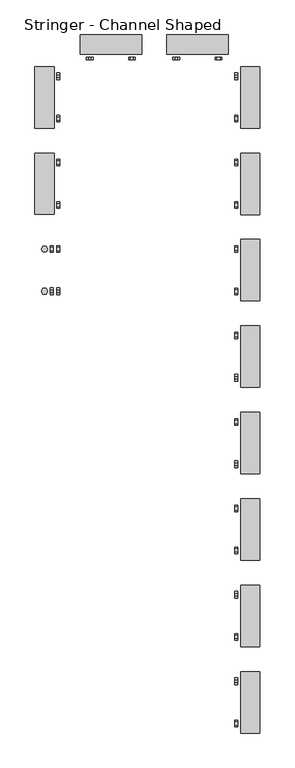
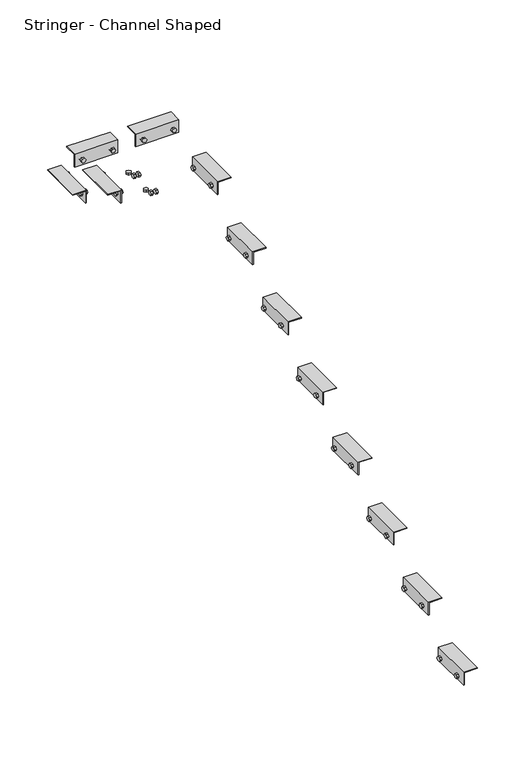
"""IFC4 building model written with IfcOpenShell, lengths in millimetres: railing geometry, Stringer - Channel Shaped."""

from ifc_helpers import new_model, si_unit, frame, origin, place, context, project, spatial, polyline, outline, extrude, source, transform, mapped, element, save


def stringer_channel_shaped_5b7d0e47(model_context):
    return source(origin(), model_context, "Body", "SweptSolid", [
        extrude(outline(polyline([(1558.637272, 1836.5107143), (1564.1365333, 1846.0357143), (1575.1350559, 1846.0357143), (1580.6343173, 1836.5107143), (1575.1350559, 1826.9857143), (1564.1365333, 1826.9857143), (1558.637272, 1836.5107143)])), frame((1508.1306157, 0.0, 0.0), z_axis=(1.0, 0.0, 0.0), x_axis=(0.0, 1.0, 0.0)), (0.0, 0.0, 1.0), 9.525),
        extrude(outline(polyline([(1418.937272, 1836.5107143), (1424.4365333, 1846.0357143), (1435.4350559, 1846.0357143), (1440.9343173, 1836.5107143), (1435.4350559, 1826.9857143), (1424.4365333, 1826.9857143), (1418.937272, 1836.5107143)])), frame((1508.1306157, 0.0, 0.0), z_axis=(1.0, 0.0, 0.0), x_axis=(0.0, 1.0, 0.0)), (0.0, 0.0, 1.0), 9.525),
        extrude(outline(polyline([(1558.637272, 1836.5107143), (1564.1365333, 1846.0357143), (1575.1350559, 1846.0357143), (1580.6343173, 1836.5107143), (1575.1350559, 1826.9857143), (1564.1365333, 1826.9857143), (1558.637272, 1836.5107143)])), frame((1485.9056157, 0.0, 0.0), z_axis=(1.0, 0.0, 0.0), x_axis=(0.0, 1.0, 0.0)), (0.0, 0.0, 1.0), 9.525),
        extrude(outline(polyline([(1418.937272, 1836.5107143), (1424.4365333, 1846.0357143), (1435.4350559, 1846.0357143), (1440.9343173, 1836.5107143), (1435.4350559, 1826.9857143), (1424.4365333, 1826.9857143), (1418.937272, 1836.5107143)])), frame((1485.9056157, 0.0, 0.0), z_axis=(1.0, 0.0, 0.0), x_axis=(0.0, 1.0, 0.0)), (0.0, 0.0, 1.0), 9.525),
        extrude(outline(polyline([(1477.8541383, 1569.6357946), (1472.354877, 1560.1107946), (1461.3563543, 1560.1107946), (1455.857093, 1569.6357946), (1461.3563543, 1579.1607946), (1472.354877, 1579.1607946), (1477.8541383, 1569.6357946)])), frame((0.0, 0.0, 1855.5607143), z_axis=(0.0, 0.0, 1.0), x_axis=(1.0, 0.0, 0.0)), (0.0, 0.0, 1.0), 9.525),
        extrude(outline(polyline([(1477.8541383, 1429.9357946), (1472.354877, 1420.4107946), (1461.3563543, 1420.4107946), (1455.857093, 1429.9357946), (1461.3563543, 1439.4607946), (1472.354877, 1439.4607946), (1477.8541383, 1429.9357946)])), frame((0.0, 0.0, 1855.5607143), z_axis=(0.0, 0.0, 1.0), x_axis=(1.0, 0.0, 0.0)), (0.0, 0.0, 1.0), 9.525),
        extrude(outline(polyline([(1630.5892857, 1498.6056157), (1694.0892857, 1498.6056157), (1694.0892857, 1435.1056157), (1690.9142857, 1435.1056157), (1690.9142857, 1495.4306157), (1630.5892857, 1495.4306157), (1630.5892857, 1498.6056157)])), frame((0.0, 1683.9357946, 0.0), z_axis=(0.0, 1.0, 0.0), x_axis=(0.0, 0.0, 1.0)), (0.0, 0.0, 1.0), 203.2),
        extrude(outline(polyline([(1844.387272, 1662.3392857), (1849.8865333, 1671.8642857), (1860.8850559, 1671.8642857), (1866.3843173, 1662.3392857), (1860.8850559, 1652.8142857), (1849.8865333, 1652.8142857), (1844.387272, 1662.3392857)])), frame((1508.1306157, 0.0, 0.0), z_axis=(1.0, 0.0, 0.0), x_axis=(0.0, 1.0, 0.0)), (0.0, 0.0, 1.0), 9.525),
        extrude(outline(polyline([(1704.687272, 1662.3392857), (1710.1865333, 1671.8642857), (1721.1850559, 1671.8642857), (1726.6843173, 1662.3392857), (1721.1850559, 1652.8142857), (1710.1865333, 1652.8142857), (1704.687272, 1662.3392857)])), frame((1508.1306157, 0.0, 0.0), z_axis=(1.0, 0.0, 0.0), x_axis=(0.0, 1.0, 0.0)), (0.0, 0.0, 1.0), 9.525),
        extrude(outline(polyline([(1844.387272, 1662.3392857), (1849.8865333, 1671.8642857), (1860.8850559, 1671.8642857), (1866.3843173, 1662.3392857), (1860.8850559, 1652.8142857), (1849.8865333, 1652.8142857), (1844.387272, 1662.3392857)])), frame((1485.9056157, 0.0, 0.0), z_axis=(1.0, 0.0, 0.0), x_axis=(0.0, 1.0, 0.0)), (0.0, 0.0, 1.0), 9.525),
        extrude(outline(polyline([(1704.687272, 1662.3392857), (1710.1865333, 1671.8642857), (1721.1850559, 1671.8642857), (1726.6843173, 1662.3392857), (1721.1850559, 1652.8142857), (1710.1865333, 1652.8142857), (1704.687272, 1662.3392857)])), frame((1485.9056157, 0.0, 0.0), z_axis=(1.0, 0.0, 0.0), x_axis=(0.0, 1.0, 0.0)), (0.0, 0.0, 1.0), 9.525),
        extrude(outline(polyline([(1477.8541383, 1855.3857946), (1472.354877, 1845.8607946), (1461.3563543, 1845.8607946), (1455.857093, 1855.3857946), (1461.3563543, 1864.9107946), (1472.354877, 1864.9107946), (1477.8541383, 1855.3857946)])), frame((0.0, 0.0, 1681.3892857), z_axis=(0.0, 0.0, 1.0), x_axis=(1.0, 0.0, 0.0)), (0.0, 0.0, 1.0), 9.525),
        extrude(outline(polyline([(1477.8541383, 1715.6857946), (1472.354877, 1706.1607946), (1461.3563543, 1706.1607946), (1455.857093, 1715.6857946), (1461.3563543, 1725.2107946), (1472.354877, 1725.2107946), (1477.8541383, 1715.6857946)])), frame((0.0, 0.0, 1681.3892857), z_axis=(0.0, 0.0, 1.0), x_axis=(1.0, 0.0, 0.0)), (0.0, 0.0, 1.0), 9.525),
        extrude(outline(polyline([(1456.4178571, 1498.6056157), (1519.9178571, 1498.6056157), (1519.9178571, 1435.1056157), (1516.7428571, 1435.1056157), (1516.7428571, 1495.4306157), (1456.4178571, 1495.4306157), (1456.4178571, 1498.6056157)])), frame((0.0, 1969.6857946, 0.0), z_axis=(0.0, 1.0, 0.0), x_axis=(0.0, 0.0, 1.0)), (0.0, 0.0, 1.0), 203.2),
        extrude(outline(polyline([(2130.137272, 1488.1678571), (2135.6365333, 1497.6928571), (2146.6350559, 1497.6928571), (2152.1343173, 1488.1678571), (2146.6350559, 1478.6428571), (2135.6365333, 1478.6428571), (2130.137272, 1488.1678571)])), frame((1508.1306157, 0.0, 0.0), z_axis=(1.0, 0.0, 0.0), x_axis=(0.0, 1.0, 0.0)), (0.0, 0.0, 1.0), 9.525),
        extrude(outline(polyline([(1990.437272, 1488.1678571), (1995.9365333, 1497.6928571), (2006.9350559, 1497.6928571), (2012.4343173, 1488.1678571), (2006.9350559, 1478.6428571), (1995.9365333, 1478.6428571), (1990.437272, 1488.1678571)])), frame((1508.1306157, 0.0, 0.0), z_axis=(1.0, 0.0, 0.0), x_axis=(0.0, 1.0, 0.0)), (0.0, 0.0, 1.0), 9.525),
        extrude(outline(polyline([(2130.137272, 1488.1678571), (2135.6365333, 1497.6928571), (2146.6350559, 1497.6928571), (2152.1343173, 1488.1678571), (2146.6350559, 1478.6428571), (2135.6365333, 1478.6428571), (2130.137272, 1488.1678571)])), frame((1485.9056157, 0.0, 0.0), z_axis=(1.0, 0.0, 0.0), x_axis=(0.0, 1.0, 0.0)), (0.0, 0.0, 1.0), 9.525),
        extrude(outline(polyline([(1990.437272, 1488.1678571), (1995.9365333, 1497.6928571), (2006.9350559, 1497.6928571), (2012.4343173, 1488.1678571), (2006.9350559, 1478.6428571), (1995.9365333, 1478.6428571), (1990.437272, 1488.1678571)])), frame((1485.9056157, 0.0, 0.0), z_axis=(1.0, 0.0, 0.0), x_axis=(0.0, 1.0, 0.0)), (0.0, 0.0, 1.0), 9.525),
        extrude(outline(polyline([(1477.8541383, 2141.1357946), (1472.354877, 2131.6107946), (1461.3563543, 2131.6107946), (1455.857093, 2141.1357946), (1461.3563543, 2150.6607946), (1472.354877, 2150.6607946), (1477.8541383, 2141.1357946)])), frame((0.0, 0.0, 1507.2178571), z_axis=(0.0, 0.0, 1.0), x_axis=(1.0, 0.0, 0.0)), (0.0, 0.0, 1.0), 9.525),
        extrude(outline(polyline([(1477.8541383, 2001.4357946), (1472.354877, 1991.9107946), (1461.3563543, 1991.9107946), (1455.857093, 2001.4357946), (1461.3563543, 2010.9607946), (1472.354877, 2010.9607946), (1477.8541383, 2001.4357946)])), frame((0.0, 0.0, 1507.2178571), z_axis=(0.0, 0.0, 1.0), x_axis=(1.0, 0.0, 0.0)), (0.0, 0.0, 1.0), 9.525),
        extrude(outline(polyline([(2214.1607946, 1456.4178571), (2214.1607946, 1519.9178571), (2277.6607946, 1519.9178571), (2277.6607946, 1516.7428571), (2217.3357946, 1516.7428571), (2217.3357946, 1456.4178571), (2214.1607946, 1456.4178571)])), frame((1584.7568252, 0.0, 0.0), z_axis=(1.0, 0.0, 0.0), x_axis=(0.0, 1.0, 0.0)), (0.0, 0.0, 1.0), 203.2),
        extrude(outline(polyline([(1488.1678571, 1745.2083026), (1478.6428571, 1750.7075639), (1478.6428571, 1761.7060865), (1488.1678571, 1767.2053478), (1497.6928571, 1761.7060865), (1497.6928571, 1750.7075639), (1488.1678571, 1745.2083026)])), frame((0.0, 2195.1107946, 0.0), z_axis=(0.0, 1.0, 0.0), x_axis=(0.0, 0.0, 1.0)), (0.0, 0.0, 1.0), 9.525),
        extrude(outline(polyline([(1488.1678571, 1605.5083026), (1478.6428571, 1611.0075639), (1478.6428571, 1622.0060865), (1488.1678571, 1627.5053478), (1497.6928571, 1622.0060865), (1497.6928571, 1611.0075639), (1488.1678571, 1605.5083026)])), frame((0.0, 2195.1107946, 0.0), z_axis=(0.0, 1.0, 0.0), x_axis=(0.0, 0.0, 1.0)), (0.0, 0.0, 1.0), 9.525),
        extrude(outline(polyline([(1488.1678571, 1745.2083026), (1478.6428571, 1750.7075639), (1478.6428571, 1761.7060865), (1488.1678571, 1767.2053478), (1497.6928571, 1761.7060865), (1497.6928571, 1750.7075639), (1488.1678571, 1745.2083026)])), frame((0.0, 2217.3357946, 0.0), z_axis=(0.0, 1.0, 0.0), x_axis=(0.0, 0.0, 1.0)), (0.0, 0.0, 1.0), 9.525),
        extrude(outline(polyline([(1488.1678571, 1605.5083026), (1478.6428571, 1611.0075639), (1478.6428571, 1622.0060865), (1488.1678571, 1627.5053478), (1497.6928571, 1622.0060865), (1497.6928571, 1611.0075639), (1488.1678571, 1605.5083026)])), frame((0.0, 2217.3357946, 0.0), z_axis=(0.0, 1.0, 0.0), x_axis=(0.0, 0.0, 1.0)), (0.0, 0.0, 1.0), 9.525),
        extrude(outline(polyline([(1756.2068252, 2234.912272), (1746.6818252, 2240.4115333), (1746.6818252, 2251.4100559), (1756.2068252, 2256.9093173), (1765.7318252, 2251.4100559), (1765.7318252, 2240.4115333), (1756.2068252, 2234.912272)])), frame((0.0, 0.0, 1507.2178571), z_axis=(0.0, 0.0, 1.0), x_axis=(1.0, 0.0, 0.0)), (0.0, 0.0, 1.0), 9.525),
        extrude(outline(polyline([(1616.5068252, 2234.912272), (1606.9818252, 2240.4115333), (1606.9818252, 2251.4100559), (1616.5068252, 2256.9093173), (1626.0318252, 2251.4100559), (1626.0318252, 2240.4115333), (1616.5068252, 2234.912272)])), frame((0.0, 0.0, 1507.2178571), z_axis=(0.0, 0.0, 1.0), x_axis=(1.0, 0.0, 0.0)), (0.0, 0.0, 1.0), 9.525),
        extrude(outline(polyline([(2214.1607946, 1456.4178571), (2214.1607946, 1519.9178571), (2277.6607946, 1519.9178571), (2277.6607946, 1516.7428571), (2217.3357946, 1516.7428571), (2217.3357946, 1456.4178571), (2214.1607946, 1456.4178571)])), frame((1870.5068252, 0.0, 0.0), z_axis=(1.0, 0.0, 0.0), x_axis=(0.0, 1.0, 0.0)), (0.0, 0.0, 1.0), 203.2),
        extrude(outline(polyline([(1488.1678571, 2030.9583026), (1478.6428571, 2036.4575639), (1478.6428571, 2047.4560865), (1488.1678571, 2052.9553478), (1497.6928571, 2047.4560865), (1497.6928571, 2036.4575639), (1488.1678571, 2030.9583026)])), frame((0.0, 2195.1107946, 0.0), z_axis=(0.0, 1.0, 0.0), x_axis=(0.0, 0.0, 1.0)), (0.0, 0.0, 1.0), 9.525),
        extrude(outline(polyline([(1488.1678571, 1891.2583026), (1478.6428571, 1896.7575639), (1478.6428571, 1907.7560865), (1488.1678571, 1913.2553478), (1497.6928571, 1907.7560865), (1497.6928571, 1896.7575639), (1488.1678571, 1891.2583026)])), frame((0.0, 2195.1107946, 0.0), z_axis=(0.0, 1.0, 0.0), x_axis=(0.0, 0.0, 1.0)), (0.0, 0.0, 1.0), 9.525),
        extrude(outline(polyline([(1488.1678571, 2030.9583026), (1478.6428571, 2036.4575639), (1478.6428571, 2047.4560865), (1488.1678571, 2052.9553478), (1497.6928571, 2047.4560865), (1497.6928571, 2036.4575639), (1488.1678571, 2030.9583026)])), frame((0.0, 2217.3357946, 0.0), z_axis=(0.0, 1.0, 0.0), x_axis=(0.0, 0.0, 1.0)), (0.0, 0.0, 1.0), 9.525),
        extrude(outline(polyline([(1488.1678571, 1891.2583026), (1478.6428571, 1896.7575639), (1478.6428571, 1907.7560865), (1488.1678571, 1913.2553478), (1497.6928571, 1907.7560865), (1497.6928571, 1896.7575639), (1488.1678571, 1891.2583026)])), frame((0.0, 2217.3357946, 0.0), z_axis=(0.0, 1.0, 0.0), x_axis=(0.0, 0.0, 1.0)), (0.0, 0.0, 1.0), 9.525),
        extrude(outline(polyline([(2041.9568252, 2234.912272), (2032.4318252, 2240.4115333), (2032.4318252, 2251.4100559), (2041.9568252, 2256.9093173), (2051.4818252, 2251.4100559), (2051.4818252, 2240.4115333), (2041.9568252, 2234.912272)])), frame((0.0, 0.0, 1507.2178571), z_axis=(0.0, 0.0, 1.0), x_axis=(1.0, 0.0, 0.0)), (0.0, 0.0, 1.0), 9.525),
        extrude(outline(polyline([(1902.2568252, 2234.912272), (1892.7318252, 2240.4115333), (1892.7318252, 2251.4100559), (1902.2568252, 2256.9093173), (1911.7818252, 2251.4100559), (1911.7818252, 2240.4115333), (1902.2568252, 2234.912272)])), frame((0.0, 0.0, 1507.2178571), z_axis=(0.0, 0.0, 1.0), x_axis=(1.0, 0.0, 0.0)), (0.0, 0.0, 1.0), 9.525),
        extrude(outline(polyline([(1282.2464286, 2118.1568252), (1342.5714286, 2118.1568252), (1342.5714286, 2178.4818252), (1345.7464286, 2178.4818252), (1345.7464286, 2114.9818252), (1282.2464286, 2114.9818252), (1282.2464286, 2118.1568252)])), frame((0.0, 1969.6857946, 0.0), z_axis=(0.0, 1.0, 0.0), x_axis=(0.0, 0.0, 1.0)), (0.0, 0.0, 1.0), 203.2),
        extrude(outline(polyline([(2012.4343173, 1313.9964286), (2006.9350559, 1304.4714286), (1995.9365333, 1304.4714286), (1990.437272, 1313.9964286), (1995.9365333, 1323.5214286), (2006.9350559, 1323.5214286), (2012.4343173, 1313.9964286)])), frame((2095.9318252, 0.0, 0.0), z_axis=(1.0, 0.0, 0.0), x_axis=(0.0, 1.0, 0.0)), (0.0, 0.0, 1.0), 9.525),
        extrude(outline(polyline([(2152.1343173, 1313.9964286), (2146.6350559, 1304.4714286), (2135.6365333, 1304.4714286), (2130.137272, 1313.9964286), (2135.6365333, 1323.5214286), (2146.6350559, 1323.5214286), (2152.1343173, 1313.9964286)])), frame((2095.9318252, 0.0, 0.0), z_axis=(1.0, 0.0, 0.0), x_axis=(0.0, 1.0, 0.0)), (0.0, 0.0, 1.0), 9.525),
        extrude(outline(polyline([(2012.4343173, 1313.9964286), (2006.9350559, 1304.4714286), (1995.9365333, 1304.4714286), (1990.437272, 1313.9964286), (1995.9365333, 1323.5214286), (2006.9350559, 1323.5214286), (2012.4343173, 1313.9964286)])), frame((2118.1568252, 0.0, 0.0), z_axis=(1.0, 0.0, 0.0), x_axis=(0.0, 1.0, 0.0)), (0.0, 0.0, 1.0), 9.525),
        extrude(outline(polyline([(2152.1343173, 1313.9964286), (2146.6350559, 1304.4714286), (2135.6365333, 1304.4714286), (2130.137272, 1313.9964286), (2135.6365333, 1323.5214286), (2146.6350559, 1323.5214286), (2152.1343173, 1313.9964286)])), frame((2118.1568252, 0.0, 0.0), z_axis=(1.0, 0.0, 0.0), x_axis=(0.0, 1.0, 0.0)), (0.0, 0.0, 1.0), 9.525),
        extrude(outline(polyline([(2135.7333026, 2001.4357946), (2141.2325639, 2010.9607946), (2152.2310865, 2010.9607946), (2157.7303478, 2001.4357946), (2152.2310865, 1991.9107946), (2141.2325639, 1991.9107946), (2135.7333026, 2001.4357946)])), frame((0.0, 0.0, 1333.0464286), z_axis=(0.0, 0.0, 1.0), x_axis=(1.0, 0.0, 0.0)), (0.0, 0.0, 1.0), 9.525),
        extrude(outline(polyline([(2135.7333026, 2141.1357946), (2141.2325639, 2150.6607946), (2152.2310865, 2150.6607946), (2157.7303478, 2141.1357946), (2152.2310865, 2131.6107946), (2141.2325639, 2131.6107946), (2135.7333026, 2141.1357946)])), frame((0.0, 0.0, 1333.0464286), z_axis=(0.0, 0.0, 1.0), x_axis=(1.0, 0.0, 0.0)), (0.0, 0.0, 1.0), 9.525),
        extrude(outline(polyline([(1108.075, 2118.1568252), (1168.4, 2118.1568252), (1168.4, 2178.4818252), (1171.575, 2178.4818252), (1171.575, 2114.9818252), (1108.075, 2114.9818252), (1108.075, 2118.1568252)])), frame((0.0, 1683.9357946, 0.0), z_axis=(0.0, 1.0, 0.0), x_axis=(0.0, 0.0, 1.0)), (0.0, 0.0, 1.0), 203.2),
        extrude(outline(polyline([(1726.6843173, 1139.825), (1721.1850559, 1130.3), (1710.1865333, 1130.3), (1704.687272, 1139.825), (1710.1865333, 1149.35), (1721.1850559, 1149.35), (1726.6843173, 1139.825)])), frame((2095.9318252, 0.0, 0.0), z_axis=(1.0, 0.0, 0.0), x_axis=(0.0, 1.0, 0.0)), (0.0, 0.0, 1.0), 9.525),
        extrude(outline(polyline([(1866.3843173, 1139.825), (1860.8850559, 1130.3), (1849.8865333, 1130.3), (1844.387272, 1139.825), (1849.8865333, 1149.35), (1860.8850559, 1149.35), (1866.3843173, 1139.825)])), frame((2095.9318252, 0.0, 0.0), z_axis=(1.0, 0.0, 0.0), x_axis=(0.0, 1.0, 0.0)), (0.0, 0.0, 1.0), 9.525),
        extrude(outline(polyline([(1726.6843173, 1139.825), (1721.1850559, 1130.3), (1710.1865333, 1130.3), (1704.687272, 1139.825), (1710.1865333, 1149.35), (1721.1850559, 1149.35), (1726.6843173, 1139.825)])), frame((2118.1568252, 0.0, 0.0), z_axis=(1.0, 0.0, 0.0), x_axis=(0.0, 1.0, 0.0)), (0.0, 0.0, 1.0), 9.525),
        extrude(outline(polyline([(1866.3843173, 1139.825), (1860.8850559, 1130.3), (1849.8865333, 1130.3), (1844.387272, 1139.825), (1849.8865333, 1149.35), (1860.8850559, 1149.35), (1866.3843173, 1139.825)])), frame((2118.1568252, 0.0, 0.0), z_axis=(1.0, 0.0, 0.0), x_axis=(0.0, 1.0, 0.0)), (0.0, 0.0, 1.0), 9.525),
        extrude(outline(polyline([(2135.7333026, 1715.6857946), (2141.2325639, 1725.2107946), (2152.2310865, 1725.2107946), (2157.7303478, 1715.6857946), (2152.2310865, 1706.1607946), (2141.2325639, 1706.1607946), (2135.7333026, 1715.6857946)])), frame((0.0, 0.0, 1158.875), z_axis=(0.0, 0.0, 1.0), x_axis=(1.0, 0.0, 0.0)), (0.0, 0.0, 1.0), 9.525),
        extrude(outline(polyline([(2135.7333026, 1855.3857946), (2141.2325639, 1864.9107946), (2152.2310865, 1864.9107946), (2157.7303478, 1855.3857946), (2152.2310865, 1845.8607946), (2141.2325639, 1845.8607946), (2135.7333026, 1855.3857946)])), frame((0.0, 0.0, 1158.875), z_axis=(0.0, 0.0, 1.0), x_axis=(1.0, 0.0, 0.0)), (0.0, 0.0, 1.0), 9.525),
        extrude(outline(polyline([(933.9035714, 2118.1568252), (994.2285714, 2118.1568252), (994.2285714, 2178.4818252), (997.4035714, 2178.4818252), (997.4035714, 2114.9818252), (933.9035714, 2114.9818252), (933.9035714, 2118.1568252)])), frame((0.0, 1398.1857946, 0.0), z_axis=(0.0, 1.0, 0.0), x_axis=(0.0, 0.0, 1.0)), (0.0, 0.0, 1.0), 203.2),
        extrude(outline(polyline([(1440.9343173, 965.6535714), (1435.4350559, 956.1285714), (1424.4365333, 956.1285714), (1418.937272, 965.6535714), (1424.4365333, 975.1785714), (1435.4350559, 975.1785714), (1440.9343173, 965.6535714)])), frame((2095.9318252, 0.0, 0.0), z_axis=(1.0, 0.0, 0.0), x_axis=(0.0, 1.0, 0.0)), (0.0, 0.0, 1.0), 9.525),
        extrude(outline(polyline([(1580.6343173, 965.6535714), (1575.1350559, 956.1285714), (1564.1365333, 956.1285714), (1558.637272, 965.6535714), (1564.1365333, 975.1785714), (1575.1350559, 975.1785714), (1580.6343173, 965.6535714)])), frame((2095.9318252, 0.0, 0.0), z_axis=(1.0, 0.0, 0.0), x_axis=(0.0, 1.0, 0.0)), (0.0, 0.0, 1.0), 9.525),
        extrude(outline(polyline([(1440.9343173, 965.6535714), (1435.4350559, 956.1285714), (1424.4365333, 956.1285714), (1418.937272, 965.6535714), (1424.4365333, 975.1785714), (1435.4350559, 975.1785714), (1440.9343173, 965.6535714)])), frame((2118.1568252, 0.0, 0.0), z_axis=(1.0, 0.0, 0.0), x_axis=(0.0, 1.0, 0.0)), (0.0, 0.0, 1.0), 9.525),
        extrude(outline(polyline([(1580.6343173, 965.6535714), (1575.1350559, 956.1285714), (1564.1365333, 956.1285714), (1558.637272, 965.6535714), (1564.1365333, 975.1785714), (1575.1350559, 975.1785714), (1580.6343173, 965.6535714)])), frame((2118.1568252, 0.0, 0.0), z_axis=(1.0, 0.0, 0.0), x_axis=(0.0, 1.0, 0.0)), (0.0, 0.0, 1.0), 9.525),
        extrude(outline(polyline([(2135.7333026, 1429.9357946), (2141.2325639, 1439.4607946), (2152.2310865, 1439.4607946), (2157.7303478, 1429.9357946), (2152.2310865, 1420.4107946), (2141.2325639, 1420.4107946), (2135.7333026, 1429.9357946)])), frame((0.0, 0.0, 984.7035714), z_axis=(0.0, 0.0, 1.0), x_axis=(1.0, 0.0, 0.0)), (0.0, 0.0, 1.0), 9.525),
        extrude(outline(polyline([(2135.7333026, 1569.6357946), (2141.2325639, 1579.1607946), (2152.2310865, 1579.1607946), (2157.7303478, 1569.6357946), (2152.2310865, 1560.1107946), (2141.2325639, 1560.1107946), (2135.7333026, 1569.6357946)])), frame((0.0, 0.0, 984.7035714), z_axis=(0.0, 0.0, 1.0), x_axis=(1.0, 0.0, 0.0)), (0.0, 0.0, 1.0), 9.525),
        extrude(outline(polyline([(759.7321429, 2118.1568252), (820.0571429, 2118.1568252), (820.0571429, 2178.4818252), (823.2321429, 2178.4818252), (823.2321429, 2114.9818252), (759.7321429, 2114.9818252), (759.7321429, 2118.1568252)])), frame((0.0, 1112.4357946, 0.0), z_axis=(0.0, 1.0, 0.0), x_axis=(0.0, 0.0, 1.0)), (0.0, 0.0, 1.0), 203.2),
        extrude(outline(polyline([(1155.1843173, 791.4821429), (1149.6850559, 781.9571429), (1138.6865333, 781.9571429), (1133.187272, 791.4821429), (1138.6865333, 801.0071429), (1149.6850559, 801.0071429), (1155.1843173, 791.4821429)])), frame((2095.9318252, 0.0, 0.0), z_axis=(1.0, 0.0, 0.0), x_axis=(0.0, 1.0, 0.0)), (0.0, 0.0, 1.0), 9.525),
        extrude(outline(polyline([(1294.8843173, 791.4821429), (1289.3850559, 781.9571429), (1278.3865333, 781.9571429), (1272.887272, 791.4821429), (1278.3865333, 801.0071429), (1289.3850559, 801.0071429), (1294.8843173, 791.4821429)])), frame((2095.9318252, 0.0, 0.0), z_axis=(1.0, 0.0, 0.0), x_axis=(0.0, 1.0, 0.0)), (0.0, 0.0, 1.0), 9.525),
        extrude(outline(polyline([(1155.1843173, 791.4821429), (1149.6850559, 781.9571429), (1138.6865333, 781.9571429), (1133.187272, 791.4821429), (1138.6865333, 801.0071429), (1149.6850559, 801.0071429), (1155.1843173, 791.4821429)])), frame((2118.1568252, 0.0, 0.0), z_axis=(1.0, 0.0, 0.0), x_axis=(0.0, 1.0, 0.0)), (0.0, 0.0, 1.0), 9.525),
        extrude(outline(polyline([(1294.8843173, 791.4821429), (1289.3850559, 781.9571429), (1278.3865333, 781.9571429), (1272.887272, 791.4821429), (1278.3865333, 801.0071429), (1289.3850559, 801.0071429), (1294.8843173, 791.4821429)])), frame((2118.1568252, 0.0, 0.0), z_axis=(1.0, 0.0, 0.0), x_axis=(0.0, 1.0, 0.0)), (0.0, 0.0, 1.0), 9.525),
        extrude(outline(polyline([(2135.7333026, 1144.1857946), (2141.2325639, 1153.7107946), (2152.2310865, 1153.7107946), (2157.7303478, 1144.1857946), (2152.2310865, 1134.6607946), (2141.2325639, 1134.6607946), (2135.7333026, 1144.1857946)])), frame((0.0, 0.0, 810.5321429), z_axis=(0.0, 0.0, 1.0), x_axis=(1.0, 0.0, 0.0)), (0.0, 0.0, 1.0), 9.525),
        extrude(outline(polyline([(2135.7333026, 1283.8857946), (2141.2325639, 1293.4107946), (2152.2310865, 1293.4107946), (2157.7303478, 1283.8857946), (2152.2310865, 1274.3607946), (2141.2325639, 1274.3607946), (2135.7333026, 1283.8857946)])), frame((0.0, 0.0, 810.5321429), z_axis=(0.0, 0.0, 1.0), x_axis=(1.0, 0.0, 0.0)), (0.0, 0.0, 1.0), 9.525),
        extrude(outline(polyline([(585.5607143, 2118.1568252), (645.8857143, 2118.1568252), (645.8857143, 2178.4818252), (649.0607143, 2178.4818252), (649.0607143, 2114.9818252), (585.5607143, 2114.9818252), (585.5607143, 2118.1568252)])), frame((0.0, 826.6857946, 0.0), z_axis=(0.0, 1.0, 0.0), x_axis=(0.0, 0.0, 1.0)), (0.0, 0.0, 1.0), 203.2),
        extrude(outline(polyline([(869.4343173, 617.3107143), (863.9350559, 607.7857143), (852.9365333, 607.7857143), (847.437272, 617.3107143), (852.9365333, 626.8357143), (863.9350559, 626.8357143), (869.4343173, 617.3107143)])), frame((2095.9318252, 0.0, 0.0), z_axis=(1.0, 0.0, 0.0), x_axis=(0.0, 1.0, 0.0)), (0.0, 0.0, 1.0), 9.525),
        extrude(outline(polyline([(1009.1343173, 617.3107143), (1003.6350559, 607.7857143), (992.6365333, 607.7857143), (987.137272, 617.3107143), (992.6365333, 626.8357143), (1003.6350559, 626.8357143), (1009.1343173, 617.3107143)])), frame((2095.9318252, 0.0, 0.0), z_axis=(1.0, 0.0, 0.0), x_axis=(0.0, 1.0, 0.0)), (0.0, 0.0, 1.0), 9.525),
        extrude(outline(polyline([(869.4343173, 617.3107143), (863.9350559, 607.7857143), (852.9365333, 607.7857143), (847.437272, 617.3107143), (852.9365333, 626.8357143), (863.9350559, 626.8357143), (869.4343173, 617.3107143)])), frame((2118.1568252, 0.0, 0.0), z_axis=(1.0, 0.0, 0.0), x_axis=(0.0, 1.0, 0.0)), (0.0, 0.0, 1.0), 9.525),
        extrude(outline(polyline([(1009.1343173, 617.3107143), (1003.6350559, 607.7857143), (992.6365333, 607.7857143), (987.137272, 617.3107143), (992.6365333, 626.8357143), (1003.6350559, 626.8357143), (1009.1343173, 617.3107143)])), frame((2118.1568252, 0.0, 0.0), z_axis=(1.0, 0.0, 0.0), x_axis=(0.0, 1.0, 0.0)), (0.0, 0.0, 1.0), 9.525),
        extrude(outline(polyline([(2135.7333026, 858.4357946), (2141.2325639, 867.9607946), (2152.2310865, 867.9607946), (2157.7303478, 858.4357946), (2152.2310865, 848.9107946), (2141.2325639, 848.9107946), (2135.7333026, 858.4357946)])), frame((0.0, 0.0, 636.3607143), z_axis=(0.0, 0.0, 1.0), x_axis=(1.0, 0.0, 0.0)), (0.0, 0.0, 1.0), 9.525),
        extrude(outline(polyline([(2135.7333026, 998.1357946), (2141.2325639, 1007.6607946), (2152.2310865, 1007.6607946), (2157.7303478, 998.1357946), (2152.2310865, 988.6107946), (2141.2325639, 988.6107946), (2135.7333026, 998.1357946)])), frame((0.0, 0.0, 636.3607143), z_axis=(0.0, 0.0, 1.0), x_axis=(1.0, 0.0, 0.0)), (0.0, 0.0, 1.0), 9.525),
        extrude(outline(polyline([(411.3892857, 2118.1568252), (471.7142857, 2118.1568252), (471.7142857, 2178.4818252), (474.8892857, 2178.4818252), (474.8892857, 2114.9818252), (411.3892857, 2114.9818252), (411.3892857, 2118.1568252)])), frame((0.0, 540.9357946, 0.0), z_axis=(0.0, 1.0, 0.0), x_axis=(0.0, 0.0, 1.0)), (0.0, 0.0, 1.0), 203.2),
        extrude(outline(polyline([(583.6843173, 443.1392857), (578.1850559, 433.6142857), (567.1865333, 433.6142857), (561.687272, 443.1392857), (567.1865333, 452.6642857), (578.1850559, 452.6642857), (583.6843173, 443.1392857)])), frame((2095.9318252, 0.0, 0.0), z_axis=(1.0, 0.0, 0.0), x_axis=(0.0, 1.0, 0.0)), (0.0, 0.0, 1.0), 9.525),
        extrude(outline(polyline([(723.3843173, 443.1392857), (717.8850559, 433.6142857), (706.8865333, 433.6142857), (701.387272, 443.1392857), (706.8865333, 452.6642857), (717.8850559, 452.6642857), (723.3843173, 443.1392857)])), frame((2095.9318252, 0.0, 0.0), z_axis=(1.0, 0.0, 0.0), x_axis=(0.0, 1.0, 0.0)), (0.0, 0.0, 1.0), 9.525),
        extrude(outline(polyline([(583.6843173, 443.1392857), (578.1850559, 433.6142857), (567.1865333, 433.6142857), (561.687272, 443.1392857), (567.1865333, 452.6642857), (578.1850559, 452.6642857), (583.6843173, 443.1392857)])), frame((2118.1568252, 0.0, 0.0), z_axis=(1.0, 0.0, 0.0), x_axis=(0.0, 1.0, 0.0)), (0.0, 0.0, 1.0), 9.525),
        extrude(outline(polyline([(723.3843173, 443.1392857), (717.8850559, 433.6142857), (706.8865333, 433.6142857), (701.387272, 443.1392857), (706.8865333, 452.6642857), (717.8850559, 452.6642857), (723.3843173, 443.1392857)])), frame((2118.1568252, 0.0, 0.0), z_axis=(1.0, 0.0, 0.0), x_axis=(0.0, 1.0, 0.0)), (0.0, 0.0, 1.0), 9.525),
        extrude(outline(polyline([(2135.7333026, 572.6857946), (2141.2325639, 582.2107946), (2152.2310865, 582.2107946), (2157.7303478, 572.6857946), (2152.2310865, 563.1607946), (2141.2325639, 563.1607946), (2135.7333026, 572.6857946)])), frame((0.0, 0.0, 462.1892857), z_axis=(0.0, 0.0, 1.0), x_axis=(1.0, 0.0, 0.0)), (0.0, 0.0, 1.0), 9.525),
        extrude(outline(polyline([(2135.7333026, 712.3857946), (2141.2325639, 721.9107946), (2152.2310865, 721.9107946), (2157.7303478, 712.3857946), (2152.2310865, 702.8607946), (2141.2325639, 702.8607946), (2135.7333026, 712.3857946)])), frame((0.0, 0.0, 462.1892857), z_axis=(0.0, 0.0, 1.0), x_axis=(1.0, 0.0, 0.0)), (0.0, 0.0, 1.0), 9.525),
        extrude(outline(polyline([(237.2178571, 2118.1568252), (297.5428571, 2118.1568252), (297.5428571, 2178.4818252), (300.7178571, 2178.4818252), (300.7178571, 2114.9818252), (237.2178571, 2114.9818252), (237.2178571, 2118.1568252)])), frame((0.0, 255.1857946, 0.0), z_axis=(0.0, 1.0, 0.0), x_axis=(0.0, 0.0, 1.0)), (0.0, 0.0, 1.0), 203.2),
        extrude(outline(polyline([(297.9343173, 268.9678571), (292.4350559, 259.4428571), (281.4365333, 259.4428571), (275.937272, 268.9678571), (281.4365333, 278.4928571), (292.4350559, 278.4928571), (297.9343173, 268.9678571)])), frame((2095.9318252, 0.0, 0.0), z_axis=(1.0, 0.0, 0.0), x_axis=(0.0, 1.0, 0.0)), (0.0, 0.0, 1.0), 9.525),
        extrude(outline(polyline([(437.6343173, 268.9678571), (432.1350559, 259.4428571), (421.1365333, 259.4428571), (415.637272, 268.9678571), (421.1365333, 278.4928571), (432.1350559, 278.4928571), (437.6343173, 268.9678571)])), frame((2095.9318252, 0.0, 0.0), z_axis=(1.0, 0.0, 0.0), x_axis=(0.0, 1.0, 0.0)), (0.0, 0.0, 1.0), 9.525),
        extrude(outline(polyline([(297.9343173, 268.9678571), (292.4350559, 259.4428571), (281.4365333, 259.4428571), (275.937272, 268.9678571), (281.4365333, 278.4928571), (292.4350559, 278.4928571), (297.9343173, 268.9678571)])), frame((2118.1568252, 0.0, 0.0), z_axis=(1.0, 0.0, 0.0), x_axis=(0.0, 1.0, 0.0)), (0.0, 0.0, 1.0), 9.525),
        extrude(outline(polyline([(437.6343173, 268.9678571), (432.1350559, 259.4428571), (421.1365333, 259.4428571), (415.637272, 268.9678571), (421.1365333, 278.4928571), (432.1350559, 278.4928571), (437.6343173, 268.9678571)])), frame((2118.1568252, 0.0, 0.0), z_axis=(1.0, 0.0, 0.0), x_axis=(0.0, 1.0, 0.0)), (0.0, 0.0, 1.0), 9.525),
        extrude(outline(polyline([(2135.7333026, 286.9357946), (2141.2325639, 296.4607946), (2152.2310865, 296.4607946), (2157.7303478, 286.9357946), (2152.2310865, 277.4107946), (2141.2325639, 277.4107946), (2135.7333026, 286.9357946)])), frame((0.0, 0.0, 288.0178571), z_axis=(0.0, 0.0, 1.0), x_axis=(1.0, 0.0, 0.0)), (0.0, 0.0, 1.0), 9.525),
        extrude(outline(polyline([(2135.7333026, 426.6357946), (2141.2325639, 436.1607946), (2152.2310865, 436.1607946), (2157.7303478, 426.6357946), (2152.2310865, 417.1107946), (2141.2325639, 417.1107946), (2135.7333026, 426.6357946)])), frame((0.0, 0.0, 288.0178571), z_axis=(0.0, 0.0, 1.0), x_axis=(1.0, 0.0, 0.0)), (0.0, 0.0, 1.0), 9.525),
        extrude(outline(polyline([(63.0464286, 2118.1568252), (123.3714286, 2118.1568252), (123.3714286, 2178.4818252), (126.5464286, 2178.4818252), (126.5464286, 2114.9818252), (63.0464286, 2114.9818252), (63.0464286, 2118.1568252)])), frame((0.0, -30.5642054, 0.0), z_axis=(0.0, 1.0, 0.0), x_axis=(0.0, 0.0, 1.0)), (0.0, 0.0, 1.0), 203.2),
        extrude(outline(polyline([(12.1843173, 94.7964286), (6.6850559, 85.2714286), (-4.3134667, 85.2714286), (-9.812728, 94.7964286), (-4.3134667, 104.3214286), (6.6850559, 104.3214286), (12.1843173, 94.7964286)])), frame((2095.9318252, 0.0, 0.0), z_axis=(1.0, 0.0, 0.0), x_axis=(0.0, 1.0, 0.0)), (0.0, 0.0, 1.0), 9.525),
        extrude(outline(polyline([(151.8843173, 94.7964286), (146.3850559, 85.2714286), (135.3865333, 85.2714286), (129.887272, 94.7964286), (135.3865333, 104.3214286), (146.3850559, 104.3214286), (151.8843173, 94.7964286)])), frame((2095.9318252, 0.0, 0.0), z_axis=(1.0, 0.0, 0.0), x_axis=(0.0, 1.0, 0.0)), (0.0, 0.0, 1.0), 9.525),
        extrude(outline(polyline([(12.1843173, 94.7964286), (6.6850559, 85.2714286), (-4.3134667, 85.2714286), (-9.812728, 94.7964286), (-4.3134667, 104.3214286), (6.6850559, 104.3214286), (12.1843173, 94.7964286)])), frame((2118.1568252, 0.0, 0.0), z_axis=(1.0, 0.0, 0.0), x_axis=(0.0, 1.0, 0.0)), (0.0, 0.0, 1.0), 9.525),
        extrude(outline(polyline([(151.8843173, 94.7964286), (146.3850559, 85.2714286), (135.3865333, 85.2714286), (129.887272, 94.7964286), (135.3865333, 104.3214286), (146.3850559, 104.3214286), (151.8843173, 94.7964286)])), frame((2118.1568252, 0.0, 0.0), z_axis=(1.0, 0.0, 0.0), x_axis=(0.0, 1.0, 0.0)), (0.0, 0.0, 1.0), 9.525),
        extrude(outline(polyline([(2135.7333026, 1.1857946), (2141.2325639, 10.7107946), (2152.2310865, 10.7107946), (2157.7303478, 1.1857946), (2152.2310865, -8.3392054), (2141.2325639, -8.3392054), (2135.7333026, 1.1857946)])), frame((0.0, 0.0, 113.8464286), z_axis=(0.0, 0.0, 1.0), x_axis=(1.0, 0.0, 0.0)), (0.0, 0.0, 1.0), 9.525),
        extrude(outline(polyline([(2135.7333026, 140.8857946), (2141.2325639, 150.4107946), (2152.2310865, 150.4107946), (2157.7303478, 140.8857946), (2152.2310865, 131.3607946), (2141.2325639, 131.3607946), (2135.7333026, 140.8857946)])), frame((0.0, 0.0, 113.8464286), z_axis=(0.0, 0.0, 1.0), x_axis=(1.0, 0.0, 0.0)), (0.0, 0.0, 1.0), 9.525),
    ])


if __name__ == "__main__":
    model = new_model("IFC4")
    model_context = context("Model", 3, world=origin())
    ifc_project = project(units=[si_unit("LENGTHUNIT", "METRE", prefix="MILLI")], contexts=[model_context])
    site = spatial("IfcSite", under=ifc_project)
    building = spatial("IfcBuilding", under=site)
    placement = place(None, origin())
    stringer_channel_shaped_shape = stringer_channel_shaped_5b7d0e47(model_context)
    element("IfcRailing", 1, ObjectType="Stringer - Channel Shaped", at=placement, inside=building, context=model_context, shape_type="MappedRepresentation", body=[
        mapped(stringer_channel_shaped_shape, transform((0.0, 0.0, 0.0), x_axis=(1.0, 0.0, 0.0), y_axis=(0.0, 1.0, 0.0), z_axis=(0.0, 0.0, 1.0))),
    ])
    save(model, "model.ifc")
